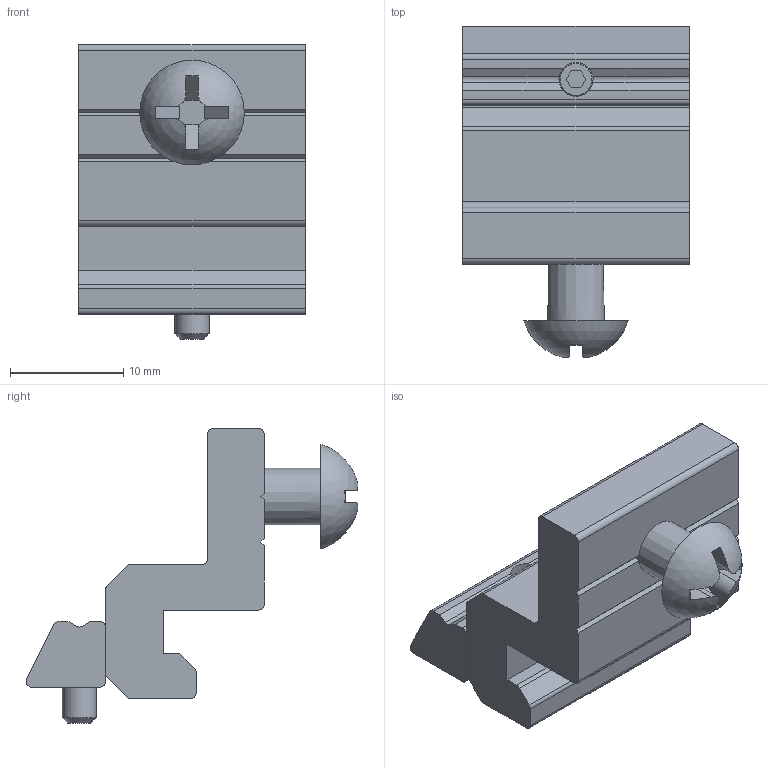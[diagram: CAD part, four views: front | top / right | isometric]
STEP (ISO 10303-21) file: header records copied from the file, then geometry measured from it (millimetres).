
FILE_DESCRIPTION(('STEP AP214'),'1');
FILE_NAME('PS4T-M5.stp','2021-12-27T10:17:59',(' '),(' '),'Spatial InterOp 3D',' ',' ');
FILE_SCHEMA(('AUTOMOTIVE_DESIGN { 1 0 10303 214 1 1 1 1 }'));
Length unit declared in the file: millimetre
Products named in the file (5): PS4T-M5; NW40; M3*8押しねじ; ねじ: 丸頭 - M5.0 x 10.0
Assembly tree (4 placements, depth 2):
  PS4T-M5
    PS4T-M5
    NW40
    M3*8押しねじ
    ねじ: 丸頭 - M5.0 x 10.0
Bounding box: 20 x 29.24 x 26 mm (x, y, z)
Volume: 4110.4 mm3; surface area: 2954 mm2
Topology: 4 solids, 4 shells, 102 faces, 272 edges, 178 vertices
Faces by surface type: plane 74, cylinder 24, cone 3, sphere 1
Full cylindrical faces by diameter (mm): 3 x2, 5 x1
Entity records: 4067 total; most frequent: CARTESIAN_POINT 590, DIRECTION 539, ORIENTED_EDGE 524, EDGE_CURVE 262, LINE 187, VECTOR 187, AXIS2_PLACEMENT_3D 176, VERTEX_POINT 175
